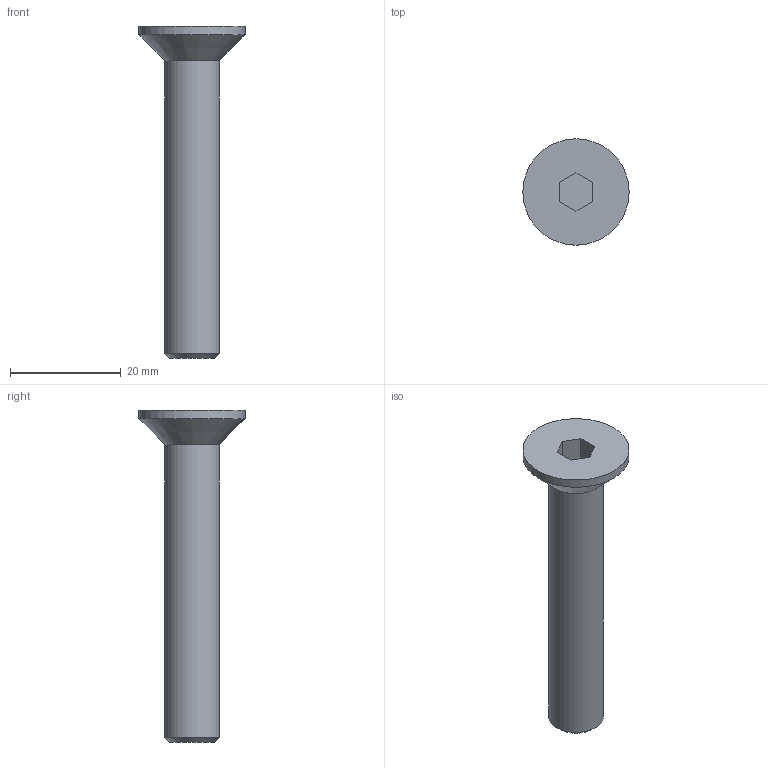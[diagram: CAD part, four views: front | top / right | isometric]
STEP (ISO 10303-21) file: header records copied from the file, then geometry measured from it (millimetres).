
FILE_DESCRIPTION(/* description */ (''),/* implementation_level */ '2;1');
FILE_NAME(/* name */ 'M10 Countersunk Bolt - ISO 10642 - A2 Stainless Steel.step',/* time_stamp */ '2024-07-05T09:51:35+03:00',/* author */ (''),/* organization */ (''),/* preprocessor_version */ 'ST-DEVELOPER v20',/* originating_system */ 'Autodesk Translation Framework v13.14.0.145',/* authorisation */ '');
FILE_SCHEMA (('AUTOMOTIVE_DESIGN { 1 0 10303 214 3 1 1 }'));
Length unit declared in the file: millimetre
Products named in the file (2): M10 Countersunk Bolt - ISO 10642 - A2 Stainless Steel; Hexagon Socket Countersunk Head Screw ISO 10642 - M10 x 60 Stainless 
Steel A2 Plain v1
Assembly tree (1 placements, depth 2):
  M10 Countersunk Bolt - ISO 10642 - A2 Stainless Steel
    Hexagon Socket Countersunk Head Screw ISO 10642 - M10 x 60 Stainless 
Steel A2 Plain v1
Bounding box: 19.22 x 19.22 x 60 mm (x, y, z)
Volume: 5123.8 mm3; surface area: 2560 mm2
Topology: 1 solids, 1 shells, 14 faces, 29 edges, 18 vertices
Faces by surface type: plane 9, cone 2, cylinder 2, torus 1
Full cylindrical faces by diameter (mm): 9.85 x1, 19.22 x1
Entity records: 428 total; most frequent: DIRECTION 70, CARTESIAN_POINT 64, ORIENTED_EDGE 58, EDGE_CURVE 29, AXIS2_PLACEMENT_3D 24, LINE 22, VECTOR 22, VERTEX_POINT 18
